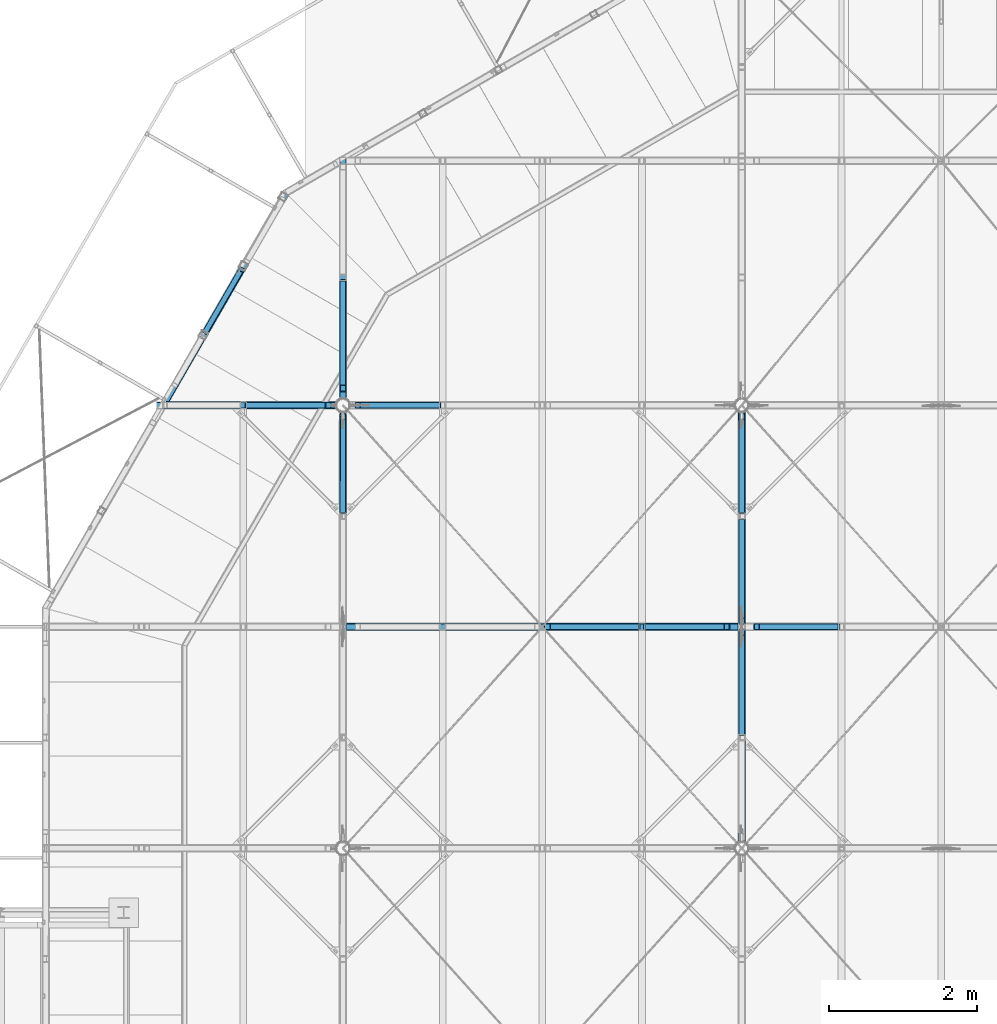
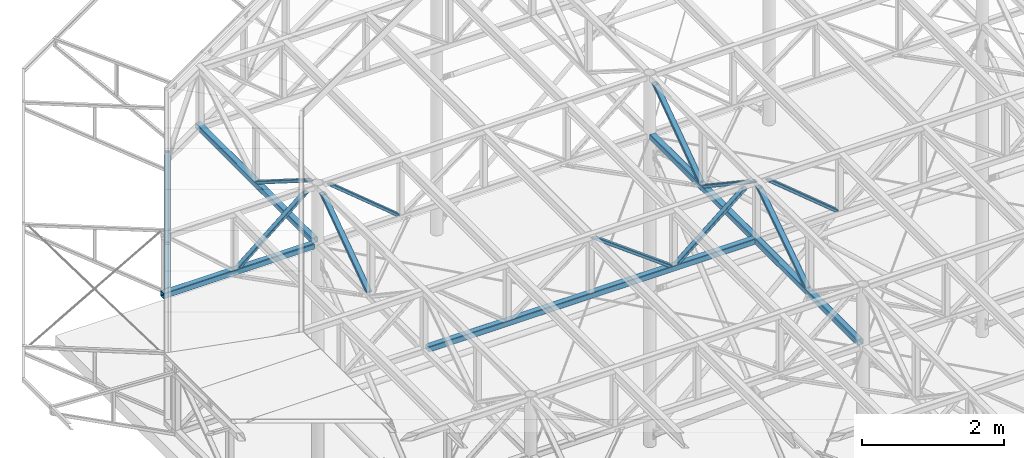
# One storey, part 53 of 132: 16 discrete accessories, 8 elements without a shape of their own.
"""IFC2X3 building model written with IfcOpenShell, lengths in millimetres."""

from ifc_helpers import new_model, si_unit, frame, origin_with_axes, origin_2d_with_axis, place, context, subcontext, project, spatial, hollow_rectangle, circle, extrude, boolean, clip, halfspace, material, type_object, element, aggregate, save


model = new_model("IFC2X3")

# Units and contexts
model_context = context("Model", 3, precision=1e-05, world=origin_with_axes())
body_context = subcontext(model_context, "Body", "Model", "MODEL_VIEW")
ifc_project = project(units=[si_unit("LENGTHUNIT", "METRE", prefix="MILLI"), si_unit("AREAUNIT", "SQUARE_METRE"), si_unit("VOLUMEUNIT", "CUBIC_METRE"), si_unit("MASSUNIT", "GRAM", prefix="KILO"), si_unit("TIMEUNIT", "SECOND"), si_unit("PLANEANGLEUNIT", "RADIAN"), si_unit("SOLIDANGLEUNIT", "STERADIAN"), si_unit("THERMODYNAMICTEMPERATUREUNIT", "DEGREE_CELSIUS"), si_unit("LUMINOUSINTENSITYUNIT", "LUMEN")], contexts=[model_context])

# Site, building, storey
site_placement = place(None, origin_with_axes())
site = spatial("IfcSite", under=ifc_project, at=site_placement, Name="Budowa", CompositionType="ELEMENT")
building_placement = place(site_placement, origin_with_axes())
building = spatial("IfcBuilding", under=site, at=building_placement, Name="Undefined", CompositionType="ELEMENT")
storey_placement = place(building_placement, origin_with_axes())
storey = spatial("IfcBuildingStorey", under=building, at=storey_placement, Name="Undefined", CompositionType="ELEMENT", Elevation=0.0)

# Assembly, discrete accessories
assembly_1_placement = place(storey_placement, origin_with_axes())
assembly_1 = element("IfcElementAssembly", 1, at=assembly_1_placement, inside=storey, Name="Steel Assembly", AssemblyPlace="NOTDEFINED", PredefinedType="RIGID_FRAME")
ifc_material = material(Name="STEEL/S235")
discrete_accessory_type = type_object("IfcDiscreteAccessoryType", Name="BEAM")
discrete_accessory_1_placement = place(assembly_1_placement, frame((2677.18336846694, 19885.9021784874, 13830.0000000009), z_axis=(-0.86602545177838, 0.499999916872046, 0.0), x_axis=(-0.366880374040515, -0.635455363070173, -0.679408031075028)))
solid_1 = boolean("DIFFERENCE", boolean("DIFFERENCE", extrude(hollow_rectangle(XDim=100.0, YDim=100.0, WallThickness=4.0, InnerFilletRadius=4.0, OuterFilletRadius=8.0, at=origin_2d_with_axis()), frame((33.9704017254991, -36.6880335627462, 1.12331645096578e-08), z_axis=(0.679408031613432, -0.73376067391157, 2.95362334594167e-10), x_axis=(0.73376067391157, 0.679408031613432, 3.18989805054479e-10)), (0.0, 0.0, 1.0), 900.0), halfspace(frame((33.9704011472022, -36.6880336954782, 1000.00000001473), z_axis=(0.679408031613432, -0.73376067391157, 2.95362334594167e-10), x_axis=(0.0, 0.0, -1.0)), True)), halfspace(frame((645.437629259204, -697.072640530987, 1000.0000002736), z_axis=(-0.679408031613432, 0.73376067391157, -2.95361762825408e-10), x_axis=(0.0, 0.0, -1.0)), True))
solid_2 = boolean("DIFFERENCE", boolean("DIFFERENCE", extrude(hollow_rectangle(XDim=100.0, YDim=100.0, WallThickness=4.0, InnerFilletRadius=4.0, OuterFilletRadius=8.0, at=origin_2d_with_axis()), frame((826.431930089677, 697.072639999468, 3.55837069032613e-07), z_axis=(0.679408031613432, -0.73376067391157, 2.95362334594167e-10), x_axis=(0.73376067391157, 0.679408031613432, 3.18989805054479e-10)), (0.0, 0.0, 1.0), 900.0), halfspace(frame((826.431929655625, 697.072640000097, 1000.00000035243), z_axis=(0.679408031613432, -0.73376067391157, 2.95362334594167e-10), x_axis=(0.0, 0.0, -1.0)), True)), halfspace(frame((1437.89915717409, 36.6880336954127, 999.999999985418), z_axis=(-0.679408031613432, 0.73376067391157, -2.95361762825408e-10), x_axis=(0.0, 0.0, -1.0)), True))
discrete_accessory_1 = element("IfcDiscreteAccessory", 2, at=discrete_accessory_1_placement, type_object=discrete_accessory_type, material=ifc_material, Name="BEAM", ObjectType="RHS80*40*4", context=body_context, shape_type="CSG", body=[
    boolean("DIFFERENCE", boolean("DIFFERENCE", boolean("DIFFERENCE", boolean("DIFFERENCE", extrude(hollow_rectangle(XDim=40.0, YDim=80.0, WallThickness=4.0, InnerFilletRadius=4.0, OuterFilletRadius=8.0, at=origin_2d_with_axis()), frame((1455.54966626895, 0.0, -1.67210073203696e-14), z_axis=(-1.0, 0.0, 0.0), x_axis=(0.0, -1.0, 0.0)), (0.0, 0.0, 1.0), 1439.23), solid_1), solid_2), halfspace(frame((1437.89915717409, 36.6880336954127, 999.999999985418), z_axis=(-0.679408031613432, 0.73376067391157, -2.95361762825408e-10), x_axis=(-0.73376067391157, -0.679408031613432, -3.18989668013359e-10)), True)), halfspace(frame((33.9704011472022, -36.6880336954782, 1000.00000001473), z_axis=(0.679408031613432, -0.73376067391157, 2.95362334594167e-10), x_axis=(0.73376067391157, 0.679408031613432, 3.18989805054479e-10)), True)),
])
discrete_accessory_2_placement = place(assembly_1_placement, frame((3255.58181669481, 20887.7175423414, 12830.0), z_axis=(0.0, 0.0, 1.0), x_axis=(-0.500000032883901, -0.866025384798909, 0.0)))
discrete_accessory_2 = element("IfcDiscreteAccessory", 3, at=discrete_accessory_2_placement, type_object=discrete_accessory_type, material=ifc_material, Name="BEAM", ObjectType="SHS100*5", context=body_context, shape_type="Clipping", body=[
    clip(clip(extrude(hollow_rectangle(XDim=100.0, YDim=100.0, WallThickness=5.0, InnerFilletRadius=5.0, OuterFilletRadius=10.0, at=origin_2d_with_axis()), frame((3363.31663048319, 1.86701578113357e-13, 0.0), z_axis=(-1.0, 0.0, 0.0), x_axis=(0.0, -1.0, 0.0)), (0.0, 0.0, 1.0), 3429.57), halfspace(frame((3247.84656727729, 50.000000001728, -50.0), z_axis=(0.866025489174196, 0.499999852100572, 0.0), x_axis=(0.5000000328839, -0.866025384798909, 0.0)), False)), halfspace(frame((3.27163434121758e-08, -50.0000000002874, 0.0), z_axis=(0.965921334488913, -0.258835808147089, 0.0), x_axis=(0.0, 0.0, 1.0)), True)),
])
aggregate(assembly_1, [discrete_accessory_1, discrete_accessory_2])

assembly_2_placement = place(storey_placement, origin_with_axes())
assembly_2 = element("IfcElementAssembly", 4, at=assembly_2_placement, inside=storey, Name="Steel Assembly", AssemblyPlace="NOTDEFINED", PredefinedType="RIGID_FRAME")
discrete_accessory_3_placement = place(assembly_2_placement, frame((3884.09999981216, 18000.0000000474, 13830.0000000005), z_axis=(0.0, -1.0, 0.0), x_axis=(-0.77030791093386, 0.0, -0.637672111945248)))
solid_3 = boolean("DIFFERENCE", boolean("DIFFERENCE", extrude(hollow_rectangle(XDim=90.0, YDim=90.0, WallThickness=6.0, InnerFilletRadius=6.0, OuterFilletRadius=12.0, at=origin_2d_with_axis()), frame((1536.32046276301, -38.5153958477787, 3.71073838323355e-10), z_axis=(-0.637672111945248, -0.770307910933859, 0.0), x_axis=(0.0, 0.0, 1.0)), (0.0, 0.0, 1.0), 900.0), halfspace(frame((766.012551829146, 599.156716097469, 3.71073838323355e-10), z_axis=(-0.637672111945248, -0.770307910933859, 0.0), x_axis=(0.77030791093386, -0.637672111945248, 0.0)), True)), halfspace(frame((192.107651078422, -94.1204037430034, 3.71073838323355e-10), z_axis=(0.637672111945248, 0.770307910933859, 0.0), x_axis=(0.77030791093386, -0.637672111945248, 0.0)), True))
discrete_accessory_3 = element("IfcDiscreteAccessory", 5, at=discrete_accessory_3_placement, type_object=discrete_accessory_type, material=ifc_material, Name="BEAM", ObjectType="RHS90*50*5", context=body_context, shape_type="CSG", body=[
    boolean("DIFFERENCE", boolean("DIFFERENCE", boolean("DIFFERENCE", extrude(hollow_rectangle(XDim=50.0, YDim=90.0, WallThickness=5.0, InnerFilletRadius=7.5, OuterFilletRadius=12.5, at=origin_2d_with_axis()), frame((1532.27723418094, -9.9455317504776e-13, 0.0), z_axis=(-1.0, 0.0, 0.0), x_axis=(0.0, -1.0, 0.0)), (0.0, 0.0, 1.0), 1496.35), solid_3), halfspace(frame((1536.3204623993, -38.515395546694, 1000.0), z_axis=(-0.637672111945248, -0.770307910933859, 0.0), x_axis=(0.77030791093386, -0.637672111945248, 0.0)), True)), halfspace(frame((31.8836055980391, 38.5153955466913, 1000.0), z_axis=(0.637672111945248, 0.770307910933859, 0.0), x_axis=(-0.770307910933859, 0.637672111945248, 0.0)), True)),
])
discrete_accessory_4_placement = place(assembly_2_placement, frame((3936.09999980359, 18000.000000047, 12830.0), z_axis=(0.0, -1.0, 0.0), x_axis=(-1.0, 0.0, 0.0)))
discrete_accessory_4 = element("IfcDiscreteAccessory", 6, at=discrete_accessory_4_placement, type_object=discrete_accessory_type, material=ifc_material, Name="BEAM", ObjectType="SHS100*8", context=body_context, shape_type="CSG", body=[
    boolean("DIFFERENCE", boolean("DIFFERENCE", extrude(hollow_rectangle(XDim=100.0, YDim=100.0, WallThickness=8.0, InnerFilletRadius=8.0, OuterFilletRadius=16.0, at=origin_2d_with_axis()), frame((2434.0, 0.0, 0.0), z_axis=(-1.0, 0.0, 0.0), x_axis=(0.0, -1.0, 0.0)), (0.0, 0.0, 1.0), 2522.9), extrude(circle(Radius=89.9, at=origin_2d_with_axis()), frame((-88.9000001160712, -1950.0, -7.27595761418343e-12), z_axis=(0.0, 1.0, 0.0), x_axis=(0.0, 0.0, 1.0)), (0.0, 0.0, 1.0), 2100.0)), halfspace(frame((-88.9000001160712, 5339.0, -7.27595761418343e-12), z_axis=(-1.0, 0.0, 0.0), x_axis=(0.0, 0.0, 1.0)), False)),
])
aggregate(assembly_2, [discrete_accessory_3, discrete_accessory_4])

assembly_3_placement = place(storey_placement, origin_with_axes())
assembly_3 = element("IfcElementAssembly", 7, at=assembly_3_placement, inside=storey, Name="Steel Assembly", AssemblyPlace="NOTDEFINED", PredefinedType="RIGID_FRAME")
discrete_accessory_5_placement = place(assembly_3_placement, frame((4024.99999991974, 18148.8000000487, 13830.0), z_axis=(1.0, 0.0, 0.0), x_axis=(0.0, 0.845757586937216, -0.533567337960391)))
solid_4 = boolean("DIFFERENCE", boolean("DIFFERENCE", extrude(hollow_rectangle(XDim=90.0, YDim=90.0, WallThickness=6.0, InnerFilletRadius=6.0, OuterFilletRadius=12.0, at=origin_2d_with_axis()), frame((1843.27053417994, 39.6200431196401, 1.45519152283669e-11), z_axis=(-0.533567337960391, 0.845757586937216, 0.0), x_axis=(-0.845757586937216, -0.533567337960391, 0.0)), (0.0, 0.0, 1.0), 900.0), halfspace(frame((1843.27053417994, 39.6200431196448, 1000.00000000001), z_axis=(-0.533567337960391, 0.845757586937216, 0.0), x_axis=(0.0, 0.0, -1.0)), True)), halfspace(frame((1363.05993001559, 800.801871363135, 1000.00000000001), z_axis=(0.53356733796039, -0.845757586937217, 0.0), x_axis=(0.0, 0.0, -1.0)), True))
discrete_accessory_5 = element("IfcDiscreteAccessory", 8, at=discrete_accessory_5_placement, type_object=discrete_accessory_type, material=ifc_material, Name="BEAM", ObjectType="RHS90*50*5", context=body_context, shape_type="CSG", body=[
    boolean("DIFFERENCE", boolean("DIFFERENCE", boolean("DIFFERENCE", extrude(hollow_rectangle(XDim=50.0, YDim=90.0, WallThickness=5.0, InnerFilletRadius=7.5, OuterFilletRadius=12.5, at=origin_2d_with_axis()), frame((1845.48264413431, -3.53553394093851e-12, 0.0), z_axis=(-1.0, 0.0, 0.0), x_axis=(0.0, -1.0, 0.0)), (0.0, 0.0, 1.0), 1816.79), solid_4), halfspace(frame((1847.49932138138, 42.287879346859, 1000.0), z_axis=(-0.533567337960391, 0.845757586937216, 0.0), x_axis=(-0.845757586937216, -0.533567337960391, 0.0)), True)), halfspace(frame((26.6783668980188, -42.2878793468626, 1000.0), z_axis=(0.53356733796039, -0.845757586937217, 0.0), x_axis=(0.845757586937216, 0.533567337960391, 0.0)), True)),
])
discrete_accessory_6_placement = place(assembly_3_placement, frame((4024.99999991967, 18088.9000000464, 12830.0), z_axis=(-1.0, 0.0, 0.0), x_axis=(0.0, 1.0, 0.0)))
discrete_accessory_6 = element("IfcDiscreteAccessory", 9, at=discrete_accessory_6_placement, type_object=discrete_accessory_type, material=ifc_material, Name="BEAM", ObjectType="SHS100*8", context=body_context, shape_type="CSG", body=[
    boolean("DIFFERENCE", boolean("DIFFERENCE", extrude(hollow_rectangle(XDim=100.0, YDim=100.0, WallThickness=8.0, InnerFilletRadius=8.0, OuterFilletRadius=16.0, at=origin_2d_with_axis()), frame((3271.09999999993, 0.0, 0.0), z_axis=(-1.0, 0.0, 0.0), x_axis=(0.0, -1.0, 0.0)), (0.0, 0.0, 1.0), 3360.0), extrude(circle(Radius=89.9, at=origin_2d_with_axis()), frame((-88.9000001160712, -1950.0, -7.27595761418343e-12), z_axis=(0.0, 1.0, 0.0), x_axis=(-1.0, 0.0, 0.0)), (0.0, 0.0, 1.0), 2100.0)), halfspace(frame((-88.9000001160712, 5339.0, -7.27595761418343e-12), z_axis=(-1.0, 0.0, 0.0), x_axis=(0.0, 0.0, 1.0)), False)),
])
aggregate(assembly_3, [discrete_accessory_5, discrete_accessory_6])

# Assembly, discrete accessory
assembly_4_placement = place(storey_placement, origin_with_axes())
assembly_4 = element("IfcElementAssembly", 10, at=assembly_4_placement, inside=storey, Name="Steel Assembly", AssemblyPlace="NOTDEFINED", PredefinedType="RIGID_FRAME")
discrete_accessory_7_placement = place(assembly_4_placement, frame((9565.99999995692, 15000.0000000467, 13830.0), z_axis=(0.0, -1.0, 0.0), x_axis=(0.770567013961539, 0.0, -0.637358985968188)))
solid_5 = boolean("DIFFERENCE", boolean("DIFFERENCE", extrude(hollow_rectangle(XDim=90.0, YDim=90.0, WallThickness=6.0, InnerFilletRadius=6.0, OuterFilletRadius=12.0, at=origin_2d_with_axis()), frame((1537.1065565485, 38.528350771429, -6.22094376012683e-10), z_axis=(-0.637358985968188, 0.770567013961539, 0.0), x_axis=(-0.770567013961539, -0.637358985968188, 0.0)), (0.0, 0.0, 1.0), 900.0), halfspace(frame((1537.1065565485, 38.5283507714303, 999.999999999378), z_axis=(-0.637358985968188, 0.770567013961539, 0.0), x_axis=(-0.770567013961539, -0.637358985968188, 0.0)), True)), halfspace(frame((963.483469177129, 732.038663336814, 999.999999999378), z_axis=(0.637358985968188, -0.770567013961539, 0.0), x_axis=(0.770567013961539, 0.637358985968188, 0.0)), True))
discrete_accessory_7 = element("IfcDiscreteAccessory", 11, at=discrete_accessory_7_placement, type_object=discrete_accessory_type, material=ifc_material, Name="BEAM", ObjectType="RHS90*50*5", context=body_context, shape_type="CSG", body=[
    boolean("DIFFERENCE", boolean("DIFFERENCE", boolean("DIFFERENCE", extrude(hollow_rectangle(XDim=50.0, YDim=90.0, WallThickness=5.0, InnerFilletRadius=7.5, OuterFilletRadius=12.5, at=origin_2d_with_axis()), frame((1533.07734352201, 2.27373675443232e-12, 0.0), z_axis=(-1.0, 0.0, 0.0), x_axis=(0.0, -1.0, 0.0)), (0.0, 0.0, 1.0), 1497.18), solid_5), halfspace(frame((1537.1065565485, 38.5283507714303, 999.999999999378), z_axis=(-0.637358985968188, 0.770567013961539, 0.0), x_axis=(-0.770567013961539, -0.637358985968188, 0.0)), True)), halfspace(frame((31.867949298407, -38.5283506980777, 1000.0), z_axis=(0.637358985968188, -0.770567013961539, 0.0), x_axis=(0.770567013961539, 0.637358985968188, 0.0)), True)),
])
aggregate(assembly_4, [discrete_accessory_7])

# Assembly, discrete accessories
assembly_5_placement = place(storey_placement, origin_with_axes())
assembly_5 = element("IfcElementAssembly", 12, at=assembly_5_placement, inside=storey, Name="Steel Assembly", AssemblyPlace="NOTDEFINED", PredefinedType="RIGID_FRAME")
discrete_accessory_8_placement = place(assembly_5_placement, frame((9283.99999993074, 15000.0000000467, 13830.0), z_axis=(0.0, -1.0, 0.0), x_axis=(-0.770567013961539, 0.0, -0.637358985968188)))
solid_6 = boolean("DIFFERENCE", boolean("DIFFERENCE", extrude(hollow_rectangle(XDim=90.0, YDim=90.0, WallThickness=6.0, InnerFilletRadius=6.0, OuterFilletRadius=12.0, at=origin_2d_with_axis()), frame((1537.1065565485, -38.5283507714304, -6.22094376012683e-10), z_axis=(-0.637358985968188, -0.770567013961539, 0.0), x_axis=(0.770567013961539, -0.637358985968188, 0.0)), (0.0, 0.0, 1.0), 900.0), halfspace(frame((1537.1065565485, -38.5283507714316, 999.999999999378), z_axis=(-0.637358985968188, -0.770567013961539, 0.0), x_axis=(0.770567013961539, -0.637358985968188, 0.0)), True)), halfspace(frame((963.483469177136, -732.038663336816, 999.999999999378), z_axis=(0.637358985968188, 0.770567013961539, 0.0), x_axis=(-0.770567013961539, 0.637358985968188, 0.0)), True))
discrete_accessory_8 = element("IfcDiscreteAccessory", 13, at=discrete_accessory_8_placement, type_object=discrete_accessory_type, material=ifc_material, Name="BEAM", ObjectType="RHS90*50*5", context=body_context, shape_type="CSG", body=[
    boolean("DIFFERENCE", boolean("DIFFERENCE", boolean("DIFFERENCE", extrude(hollow_rectangle(XDim=50.0, YDim=90.0, WallThickness=5.0, InnerFilletRadius=7.5, OuterFilletRadius=12.5, at=origin_2d_with_axis()), frame((1533.07734352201, 2.27373675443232e-12, 0.0), z_axis=(-1.0, 0.0, 0.0), x_axis=(0.0, -1.0, 0.0)), (0.0, 0.0, 1.0), 1497.18), solid_6), halfspace(frame((1537.1065565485, -38.5283507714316, 999.999999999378), z_axis=(-0.637358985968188, -0.770567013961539, 0.0), x_axis=(0.770567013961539, -0.637358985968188, 0.0)), True)), halfspace(frame((31.867949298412, 38.52835069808, 1000.0), z_axis=(0.637358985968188, 0.770567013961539, 0.0), x_axis=(-0.770567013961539, 0.637358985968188, 0.0)), True)),
])
discrete_accessory_9_placement = place(assembly_5_placement, frame((6724.99999993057, 15000.0000000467, 13830.0), z_axis=(0.0, -1.0, 0.0), x_axis=(0.803557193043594, 0.0, -0.595227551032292)))
solid_7 = boolean("DIFFERENCE", boolean("DIFFERENCE", extrude(hollow_rectangle(XDim=90.0, YDim=90.0, WallThickness=6.0, InnerFilletRadius=6.0, OuterFilletRadius=12.0, at=origin_2d_with_axis()), frame((1650.26838408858, 40.1778605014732, -6.22094376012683e-10), z_axis=(-0.595227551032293, 0.803557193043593, 0.0), x_axis=(-0.803557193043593, -0.595227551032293, 0.0)), (0.0, 0.0, 1.0), 900.0), halfspace(frame((1650.2683829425, 40.1778596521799, 1000.0), z_axis=(-0.595227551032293, 0.803557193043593, 0.0), x_axis=(-0.803557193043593, -0.595227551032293, 0.0)), True)), halfspace(frame((1114.56358815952, 763.379334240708, 999.999999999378), z_axis=(0.595227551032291, -0.803557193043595, 0.0), x_axis=(0.803557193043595, 0.595227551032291, 0.0)), True))
solid_8 = boolean("DIFFERENCE", boolean("DIFFERENCE", extrude(hollow_rectangle(XDim=90.0, YDim=90.0, WallThickness=6.0, InnerFilletRadius=6.0, OuterFilletRadius=12.0, at=origin_2d_with_axis()), frame((565.46617347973, -763.379333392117, -6.22094376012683e-10), z_axis=(-0.595227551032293, 0.803557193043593, 0.0), x_axis=(-0.803557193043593, -0.595227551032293, 0.0)), (0.0, 0.0, 1.0), 900.0), halfspace(frame((565.46617347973, -763.37933339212, 999.999999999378), z_axis=(-0.595227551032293, 0.803557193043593, 0.0), x_axis=(-0.803557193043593, -0.595227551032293, 0.0)), True)), halfspace(frame((29.7613775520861, -40.1778596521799, 1000.0), z_axis=(0.595227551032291, -0.803557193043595, 0.0), x_axis=(0.803557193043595, 0.595227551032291, 0.0)), True))
discrete_accessory_9 = element("IfcDiscreteAccessory", 14, at=discrete_accessory_9_placement, type_object=discrete_accessory_type, material=ifc_material, Name="BEAM", ObjectType="RHS90*50*5", context=body_context, shape_type="CSG", body=[
    boolean("DIFFERENCE", boolean("DIFFERENCE", boolean("DIFFERENCE", boolean("DIFFERENCE", extrude(hollow_rectangle(XDim=50.0, YDim=90.0, WallThickness=5.0, InnerFilletRadius=7.5, OuterFilletRadius=12.5, at=origin_2d_with_axis()), frame((1632.54994793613, 0.0, 0.0), z_axis=(-1.0, 0.0, 0.0), x_axis=(0.0, -1.0, 0.0)), (0.0, 0.0, 1.0), 1585.07), solid_7), solid_8), halfspace(frame((1650.2683829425, 40.1778596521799, 1000.0), z_axis=(-0.595227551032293, 0.803557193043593, 0.0), x_axis=(-0.803557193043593, -0.595227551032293, 0.0)), True)), halfspace(frame((29.7613775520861, -40.1778596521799, 1000.0), z_axis=(0.595227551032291, -0.803557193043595, 0.0), x_axis=(0.803557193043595, 0.595227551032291, 0.0)), True)),
])
discrete_accessory_10_placement = place(assembly_5_placement, frame((4074.99999993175, 15000.0000000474, 12830.0), z_axis=(0.0, -1.0, 0.0), x_axis=(1.0, 0.0, 0.0)))
discrete_accessory_10 = element("IfcDiscreteAccessory", 15, at=discrete_accessory_10_placement, type_object=discrete_accessory_type, material=ifc_material, Name="BEAM", ObjectType="SHS100*8", context=body_context, shape_type="SweptSolid", body=[
    extrude(hollow_rectangle(XDim=100.0, YDim=100.0, WallThickness=8.0, InnerFilletRadius=8.0, OuterFilletRadius=16.0, at=origin_2d_with_axis()), frame((5300.0, 0.0, 0.0), z_axis=(-1.0, 0.0, 0.0), x_axis=(0.0, -1.0, 0.0)), (0.0, 0.0, 1.0), 5300.0),
])
aggregate(assembly_5, [discrete_accessory_8, discrete_accessory_9, discrete_accessory_10])

# Assembly, discrete accessory
assembly_6_placement = place(storey_placement, origin_with_axes())
assembly_6 = element("IfcElementAssembly", 16, at=assembly_6_placement, inside=storey, Name="Steel Assembly", AssemblyPlace="NOTDEFINED", PredefinedType="RIGID_FRAME")
discrete_accessory_11_placement = place(assembly_6_placement, frame((4024.99999991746, 16500.0000000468, 12829.9999999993), z_axis=(1.0, 0.0, 0.0), x_axis=(0.0, 0.817796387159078, 0.575507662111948)))
solid_9 = boolean("DIFFERENCE", boolean("DIFFERENCE", extrude(hollow_rectangle(XDim=90.0, YDim=90.0, WallThickness=6.0, InnerFilletRadius=6.0, OuterFilletRadius=12.0, at=origin_2d_with_axis()), frame((28.7753831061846, 40.8898193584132, 2.20825313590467e-09), z_axis=(0.575507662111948, 0.817796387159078, 0.0), x_axis=(-0.817796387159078, 0.575507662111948, 0.0)), (0.0, 0.0, 1.0), 900.0), halfspace(frame((28.7753831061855, 40.8898193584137, 1000.00000000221), z_axis=(0.575507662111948, 0.817796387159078, 0.0), x_axis=(-0.817796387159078, 0.575507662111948, 0.0)), True)), halfspace(frame((546.732279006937, 776.906567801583, 1000.00000000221), z_axis=(-0.575507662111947, -0.817796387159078, 0.0), x_axis=(0.817796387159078, -0.575507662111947, 0.0)), True))
discrete_accessory_11 = element("IfcDiscreteAccessory", 17, at=discrete_accessory_11_placement, type_object=discrete_accessory_type, material=ifc_material, Name="BEAM", ObjectType="RHS90*50*5", context=body_context, shape_type="CSG", body=[
    boolean("DIFFERENCE", boolean("DIFFERENCE", boolean("DIFFERENCE", extrude(hollow_rectangle(XDim=50.0, YDim=90.0, WallThickness=5.0, InnerFilletRadius=7.5, OuterFilletRadius=12.5, at=origin_2d_with_axis()), frame((1708.11339266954, 0.0, 0.0), z_axis=(-1.0, 0.0, 0.0), x_axis=(0.0, -1.0, 0.0)), (0.0, 0.0, 1.0), 1678.63), solid_9), halfspace(frame((1708.8209441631, -40.8898193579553, 1000.0), z_axis=(-0.575507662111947, -0.817796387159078, 0.0), x_axis=(0.817796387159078, -0.575507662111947, 0.0)), True)), halfspace(frame((28.7753831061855, 40.8898193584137, 1000.00000000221), z_axis=(0.575507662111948, 0.817796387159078, 0.0), x_axis=(-0.817796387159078, 0.575507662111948, 0.0)), True)),
])
aggregate(assembly_6, [discrete_accessory_11])

# Assembly, discrete accessories
assembly_7_placement = place(storey_placement, origin_with_axes())
assembly_7 = element("IfcElementAssembly", 18, at=assembly_7_placement, inside=storey, Name="Steel Assembly", AssemblyPlace="NOTDEFINED", PredefinedType="RIGID_FRAME")
discrete_accessory_12_placement = place(assembly_7_placement, frame((9424.99999994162, 16500.0000000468, 12829.9999999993), z_axis=(1.0, 0.0, 0.0), x_axis=(0.0, 0.817796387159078, 0.575507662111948)))
solid_10 = boolean("DIFFERENCE", boolean("DIFFERENCE", extrude(hollow_rectangle(XDim=90.0, YDim=90.0, WallThickness=6.0, InnerFilletRadius=6.0, OuterFilletRadius=12.0, at=origin_2d_with_axis()), frame((28.7753831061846, 40.8898193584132, 2.20825313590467e-09), z_axis=(0.575507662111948, 0.817796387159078, 0.0), x_axis=(-0.817796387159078, 0.575507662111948, 0.0)), (0.0, 0.0, 1.0), 900.0), halfspace(frame((28.7753831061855, 40.8898193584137, 1000.00000000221), z_axis=(0.575507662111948, 0.817796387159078, 0.0), x_axis=(-0.817796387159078, 0.575507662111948, 0.0)), True)), halfspace(frame((546.732279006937, 776.906567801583, 1000.00000000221), z_axis=(-0.575507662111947, -0.817796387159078, 0.0), x_axis=(0.817796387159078, -0.575507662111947, 0.0)), True))
discrete_accessory_12 = element("IfcDiscreteAccessory", 19, at=discrete_accessory_12_placement, type_object=discrete_accessory_type, material=ifc_material, Name="BEAM", ObjectType="RHS90*50*5", context=body_context, shape_type="CSG", body=[
    boolean("DIFFERENCE", boolean("DIFFERENCE", boolean("DIFFERENCE", extrude(hollow_rectangle(XDim=50.0, YDim=90.0, WallThickness=5.0, InnerFilletRadius=7.5, OuterFilletRadius=12.5, at=origin_2d_with_axis()), frame((1708.11339266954, 0.0, 0.0), z_axis=(-1.0, 0.0, 0.0), x_axis=(0.0, -1.0, 0.0)), (0.0, 0.0, 1.0), 1678.63), solid_10), halfspace(frame((1708.8209441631, -40.8898193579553, 1000.0), z_axis=(-0.575507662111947, -0.817796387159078, 0.0), x_axis=(0.817796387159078, -0.575507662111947, 0.0)), True)), halfspace(frame((28.7753831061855, 40.8898193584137, 1000.00000000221), z_axis=(0.575507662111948, 0.817796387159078, 0.0), x_axis=(-0.817796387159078, 0.575507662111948, 0.0)), True)),
])
discrete_accessory_13_placement = place(assembly_7_placement, frame((9424.99999994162, 16499.8000000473, 12829.9999999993), z_axis=(1.0, 0.0, 0.0), x_axis=(0.0, -0.832050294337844, 0.554700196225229)))
solid_11 = boolean("DIFFERENCE", boolean("DIFFERENCE", extrude(hollow_rectangle(XDim=90.0, YDim=90.0, WallThickness=6.0, InnerFilletRadius=6.0, OuterFilletRadius=12.0, at=origin_2d_with_axis()), frame((27.5685997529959, -41.7134547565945, 2.20825313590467e-09), z_axis=(0.554700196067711, -0.832050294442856, 1.11090858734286e-10), x_axis=(0.832050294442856, 0.554700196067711, 1.66635594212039e-10)), (0.0, 0.0, 1.0), 900.0), halfspace(frame((27.5685997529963, -41.7134547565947, 1000.00000000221), z_axis=(0.554700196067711, -0.832050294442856, 1.11090858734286e-10), x_axis=(0.832050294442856, 0.554700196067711, 1.66635594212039e-10)), True)), halfspace(frame((526.798776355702, -790.558719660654, 1000.00000000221), z_axis=(-0.554700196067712, 0.832050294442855, -1.1109021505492e-10), x_axis=(-0.832050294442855, -0.554700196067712, -1.66634890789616e-10)), True))
solid_12 = boolean("DIFFERENCE", boolean("DIFFERENCE", extrude(hollow_rectangle(XDim=90.0, YDim=90.0, WallThickness=6.0, InnerFilletRadius=6.0, OuterFilletRadius=12.0, at=origin_2d_with_axis()), frame((1275.64404125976, 790.336839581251, 2.20825313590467e-09), z_axis=(0.554700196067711, -0.832050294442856, 1.11090858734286e-10), x_axis=(0.832050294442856, 0.554700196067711, 1.66635594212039e-10)), (0.0, 0.0, 1.0), 900.0), halfspace(frame((1275.64404125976, 790.33683958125, 1000.00000000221), z_axis=(0.554700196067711, -0.832050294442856, 1.11090858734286e-10), x_axis=(0.832050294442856, 0.554700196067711, 1.66635594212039e-10)), True)), halfspace(frame((1774.87421786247, 41.4915746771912, 1000.00000000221), z_axis=(-0.554700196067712, 0.832050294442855, -1.1109021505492e-10), x_axis=(-0.832050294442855, -0.554700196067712, -1.66634890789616e-10)), True))
discrete_accessory_13 = element("IfcDiscreteAccessory", 20, at=discrete_accessory_13_placement, type_object=discrete_accessory_type, material=ifc_material, Name="BEAM", ObjectType="RHS90*50*5", context=body_context, shape_type="CSG", body=[
    boolean("DIFFERENCE", boolean("DIFFERENCE", boolean("DIFFERENCE", boolean("DIFFERENCE", extrude(hollow_rectangle(XDim=50.0, YDim=90.0, WallThickness=5.0, InnerFilletRadius=7.5, OuterFilletRadius=12.5, at=origin_2d_with_axis()), frame((1763.05910368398, 0.0, 0.0), z_axis=(-1.0, 0.0, 0.0), x_axis=(0.0, -1.0, 0.0)), (0.0, 0.0, 1.0), 1723.34), solid_11), solid_12), halfspace(frame((1775.04062824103, 41.6025147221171, 999.999999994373), z_axis=(-0.554700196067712, 0.832050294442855, -1.1109021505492e-10), x_axis=(-0.832050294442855, -0.554700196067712, -1.66634890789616e-10)), True)), halfspace(frame((27.7350096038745, -41.6025147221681, 1000.00000000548), z_axis=(0.554700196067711, -0.832050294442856, 1.11090858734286e-10), x_axis=(0.832050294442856, 0.554700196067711, 1.66635594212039e-10)), True)),
])
discrete_accessory_14_placement = place(assembly_7_placement, frame((9424.99999994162, 13500.0000000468, 12829.9999999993), z_axis=(1.0, 0.0, 0.0), x_axis=(0.0, 0.832050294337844, 0.554700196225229)))
solid_13 = boolean("DIFFERENCE", boolean("DIFFERENCE", extrude(hollow_rectangle(XDim=90.0, YDim=90.0, WallThickness=6.0, InnerFilletRadius=6.0, OuterFilletRadius=12.0, at=origin_2d_with_axis()), frame((1275.81045145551, -790.447779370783, -2.51850795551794e-07), z_axis=(0.554700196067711, 0.832050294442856, -1.11090858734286e-10), x_axis=(-0.832050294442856, 0.554700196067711, 1.66634595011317e-10)), (0.0, 0.0, 1.0), 900.0), halfspace(frame((1275.81045165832, -790.447779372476, 999.999999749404), z_axis=(0.554700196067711, 0.832050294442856, -1.11090858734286e-10), x_axis=(-0.832050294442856, 0.554700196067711, 1.66634595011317e-10)), True)), halfspace(frame((1775.04062811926, -41.6025143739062, 999.999999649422), z_axis=(-0.554700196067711, -0.832050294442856, 1.11091980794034e-10), x_axis=(0.832050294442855, -0.554700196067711, -1.66634436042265e-10)), True))
solid_14 = boolean("DIFFERENCE", boolean("DIFFERENCE", extrude(hollow_rectangle(XDim=90.0, YDim=90.0, WallThickness=6.0, InnerFilletRadius=6.0, OuterFilletRadius=12.0, at=origin_2d_with_axis()), frame((27.7350097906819, 41.6025147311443, -4.89933715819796e-09), z_axis=(0.554700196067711, 0.832050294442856, -1.11090858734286e-10), x_axis=(-0.832050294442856, 0.554700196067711, 1.66634595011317e-10)), (0.0, 0.0, 1.0), 900.0), halfspace(frame((27.7350099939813, 41.6025147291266, 999.999999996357), z_axis=(0.554700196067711, 0.832050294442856, -1.11090858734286e-10), x_axis=(-0.832050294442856, 0.554700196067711, 1.66634595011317e-10)), True)), halfspace(frame((526.965186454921, 790.447779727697, 999.999999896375), z_axis=(-0.554700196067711, -0.832050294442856, 1.11091980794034e-10), x_axis=(0.832050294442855, -0.554700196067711, -1.66634436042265e-10)), True))
discrete_accessory_14 = element("IfcDiscreteAccessory", 21, at=discrete_accessory_14_placement, type_object=discrete_accessory_type, material=ifc_material, Name="BEAM", ObjectType="RHS90*50*5", context=body_context, shape_type="CSG", body=[
    boolean("DIFFERENCE", boolean("DIFFERENCE", boolean("DIFFERENCE", boolean("DIFFERENCE", extrude(hollow_rectangle(XDim=50.0, YDim=90.0, WallThickness=5.0, InnerFilletRadius=7.5, OuterFilletRadius=12.5, at=origin_2d_with_axis()), frame((1763.05910368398, 0.0, 0.0), z_axis=(-1.0, 0.0, 0.0), x_axis=(0.0, -1.0, 0.0)), (0.0, 0.0, 1.0), 1723.34), solid_13), solid_14), halfspace(frame((1775.04062811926, -41.6025143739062, 999.999999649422), z_axis=(-0.554700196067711, -0.832050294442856, 1.11091980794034e-10), x_axis=(0.832050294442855, -0.554700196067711, -1.66634436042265e-10)), True)), halfspace(frame((27.7350099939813, 41.6025147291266, 999.999999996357), z_axis=(0.554700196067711, 0.832050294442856, -1.11090858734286e-10), x_axis=(-0.832050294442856, 0.554700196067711, 1.66634595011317e-10)), True)),
])
discrete_accessory_15_placement = place(assembly_7_placement, frame((9424.99999994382, 12088.900000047, 12830.0), z_axis=(1.0, 0.0, 0.0), x_axis=(0.0, 1.0, 0.0)))
discrete_accessory_15 = element("IfcDiscreteAccessory", 22, at=discrete_accessory_15_placement, type_object=discrete_accessory_type, material=ifc_material, Name="BEAM", ObjectType="SHS100*8", context=body_context, shape_type="CSG", body=[
    boolean("DIFFERENCE", boolean("DIFFERENCE", boolean("DIFFERENCE", boolean("DIFFERENCE", extrude(hollow_rectangle(XDim=100.0, YDim=100.0, WallThickness=8.0, InnerFilletRadius=8.0, OuterFilletRadius=16.0, at=origin_2d_with_axis()), frame((5911.09999999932, 0.0, 0.0), z_axis=(-1.0, 0.0, 0.0), x_axis=(0.0, -1.0, 0.0)), (0.0, 0.0, 1.0), 6000.0), extrude(circle(Radius=89.9, at=origin_2d_with_axis()), frame((5911.09999999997, 1950.0, 0.0), z_axis=(0.0, -1.0, 0.0), x_axis=(-1.0, 0.0, 0.0)), (0.0, 0.0, 1.0), 2100.0)), extrude(circle(Radius=89.9, at=origin_2d_with_axis()), frame((-88.9000000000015, 1950.0, -5.45696821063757e-12), z_axis=(0.0, -1.0, 0.0), x_axis=(-1.0, 0.0, 0.0)), (0.0, 0.0, 1.0), 2100.0)), halfspace(frame((5911.09999999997, -5339.0, 0.0), z_axis=(-1.0, 0.0, 0.0), x_axis=(0.0, 0.0, -1.0)), True)), halfspace(frame((-88.9000000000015, -5339.0, -5.45696821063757e-12), z_axis=(-1.0, 0.0, 0.0), x_axis=(0.0, 0.0, -1.0)), False)),
])
aggregate(assembly_7, [discrete_accessory_12, discrete_accessory_13, discrete_accessory_14, discrete_accessory_15])

# Assembly, discrete accessory
assembly_8_placement = place(storey_placement, origin_with_axes())
assembly_8 = element("IfcElementAssembly", 23, at=assembly_8_placement, inside=storey, Name="Steel Assembly", AssemblyPlace="NOTDEFINED", PredefinedType="RIGID_FRAME")
discrete_accessory_16_placement = place(assembly_8_placement, frame((4165.99999993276, 18000.0000000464, 13830.0), z_axis=(0.0, -1.0, 0.0), x_axis=(0.770567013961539, 0.0, -0.637358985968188)))
solid_15 = boolean("DIFFERENCE", boolean("DIFFERENCE", extrude(hollow_rectangle(XDim=90.0, YDim=90.0, WallThickness=6.0, InnerFilletRadius=6.0, OuterFilletRadius=12.0, at=origin_2d_with_axis()), frame((1537.1065565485, 38.528350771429, -6.22094376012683e-10), z_axis=(-0.637358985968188, 0.770567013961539, 0.0), x_axis=(-0.770567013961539, -0.637358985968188, 0.0)), (0.0, 0.0, 1.0), 900.0), halfspace(frame((1537.1065565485, 38.5283507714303, 999.999999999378), z_axis=(-0.637358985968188, 0.770567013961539, 0.0), x_axis=(-0.770567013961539, -0.637358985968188, 0.0)), True)), halfspace(frame((963.483469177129, 732.038663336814, 999.999999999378), z_axis=(0.637358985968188, -0.770567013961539, 0.0), x_axis=(0.770567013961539, 0.637358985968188, 0.0)), True))
discrete_accessory_16 = element("IfcDiscreteAccessory", 24, at=discrete_accessory_16_placement, type_object=discrete_accessory_type, material=ifc_material, Name="BEAM", ObjectType="RHS90*50*5", context=body_context, shape_type="CSG", body=[
    boolean("DIFFERENCE", boolean("DIFFERENCE", boolean("DIFFERENCE", extrude(hollow_rectangle(XDim=50.0, YDim=90.0, WallThickness=5.0, InnerFilletRadius=7.5, OuterFilletRadius=12.5, at=origin_2d_with_axis()), frame((1533.07734352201, 2.27373675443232e-12, 0.0), z_axis=(-1.0, 0.0, 0.0), x_axis=(0.0, -1.0, 0.0)), (0.0, 0.0, 1.0), 1497.18), solid_15), halfspace(frame((1537.1065565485, 38.5283507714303, 999.999999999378), z_axis=(-0.637358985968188, 0.770567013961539, 0.0), x_axis=(-0.770567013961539, -0.637358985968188, 0.0)), True)), halfspace(frame((31.867949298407, -38.5283506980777, 1000.0), z_axis=(0.637358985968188, -0.770567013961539, 0.0), x_axis=(0.770567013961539, 0.637358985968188, 0.0)), True)),
])
aggregate(assembly_8, [discrete_accessory_16])

save(model, "model.ifc")
